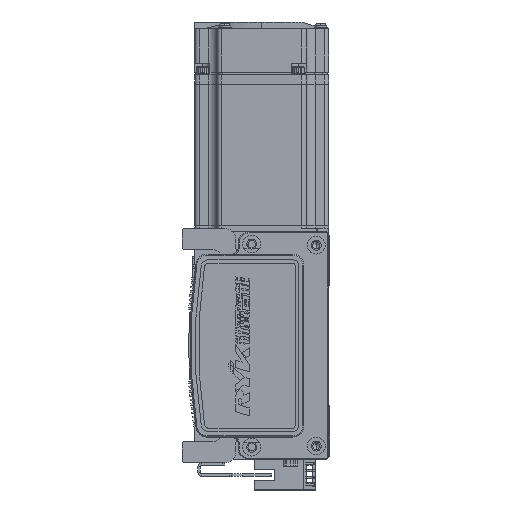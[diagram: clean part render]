
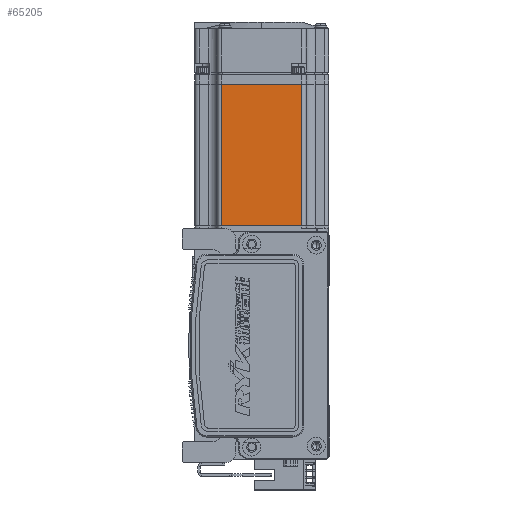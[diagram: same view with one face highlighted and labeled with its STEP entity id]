
A CAD part, left-side view. The second image highlights one B-rep face of the part: STEP entity #65205.
In plain terms, the highlighted planar face has unit normal (-1, 0, 0) as drawn and (0, 0, -1) by its records, which use the part's own axes.
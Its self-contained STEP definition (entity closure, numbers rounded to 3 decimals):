
#635 = ORIENTED_EDGE ( 'NONE', *, *, #32470, .T. ) ;
#2091 = FACE_OUTER_BOUND ( 'NONE', #49094, .T. ) ;
#4196 = CARTESIAN_POINT ( 'NONE',  ( -6.5, 25., -30. ) ) ;
#5189 = CARTESIAN_POINT ( 'NONE',  ( -6.5, -18., -30. ) ) ;
#8152 = EDGE_CURVE ( 'NONE', #35325, #38912, #70215, .T. ) ;
#8740 = DIRECTION ( 'NONE',  ( 1., 0., 0. ) ) ;
#9459 = DIRECTION ( 'NONE',  ( 0., 1., 0. ) ) ;
#14834 = CARTESIAN_POINT ( 'NONE',  ( -7.75, -18., -30. ) ) ;
#15090 = PLANE ( 'NONE',  #41978 ) ;
#15990 = CARTESIAN_POINT ( 'NONE',  ( -70.95, 25., -30. ) ) ;
#20116 = EDGE_CURVE ( 'NONE', #38912, #45973, #70377, .T. ) ;
#20245 = VECTOR ( 'NONE', #8740, 1000. ) ;
#23974 = ORIENTED_EDGE ( 'NONE', *, *, #20116, .T. ) ;
#24879 = CARTESIAN_POINT ( 'NONE',  ( -6.5, 18., -30. ) ) ;
#29803 = VECTOR ( 'NONE', #37909, 1000. ) ;
#30453 = VERTEX_POINT ( 'NONE', #52878 ) ;
#31934 = LINE ( 'NONE', #60284, #33676 ) ;
#32470 = EDGE_CURVE ( 'NONE', #30453, #35325, #31934, .T. ) ;
#33676 = VECTOR ( 'NONE', #65612, 1000. ) ;
#35325 = VERTEX_POINT ( 'NONE', #14834 ) ;
#37909 = DIRECTION ( 'NONE',  ( -1., 0., 0. ) ) ;
#38284 = LINE ( 'NONE', #24879, #20245 ) ;
#38912 = VERTEX_POINT ( 'NONE', #54980 ) ;
#41978 = AXIS2_PLACEMENT_3D ( 'NONE', #4196, #53978, #46501 ) ;
#45973 = VERTEX_POINT ( 'NONE', #47260 ) ;
#46480 = EDGE_CURVE ( 'NONE', #45973, #30453, #38284, .T. ) ;
#46501 = DIRECTION ( 'NONE',  ( -1., 0., 0. ) ) ;
#47260 = CARTESIAN_POINT ( 'NONE',  ( -70.95, 18., -30. ) ) ;
#49094 = EDGE_LOOP ( 'NONE', ( #635, #52470, #23974, #59360 ) ) ;
#52470 = ORIENTED_EDGE ( 'NONE', *, *, #8152, .T. ) ;
#52878 = CARTESIAN_POINT ( 'NONE',  ( -7.75, 18., -30. ) ) ;
#53978 = DIRECTION ( 'NONE',  ( 0., 0., -1. ) ) ;
#54980 = CARTESIAN_POINT ( 'NONE',  ( -70.95, -18., -30. ) ) ;
#59360 = ORIENTED_EDGE ( 'NONE', *, *, #46480, .T. ) ;
#60284 = CARTESIAN_POINT ( 'NONE',  ( -7.75, 25., -30. ) ) ;
#64393 = VECTOR ( 'NONE', #9459, 1000. ) ;
#65205 = ADVANCED_FACE ( 'NONE', ( #2091 ), #15090, .T. ) ;
#65612 = DIRECTION ( 'NONE',  ( 0., -1., 0. ) ) ;
#70215 = LINE ( 'NONE', #5189, #29803 ) ;
#70377 = LINE ( 'NONE', #15990, #64393 ) ;
